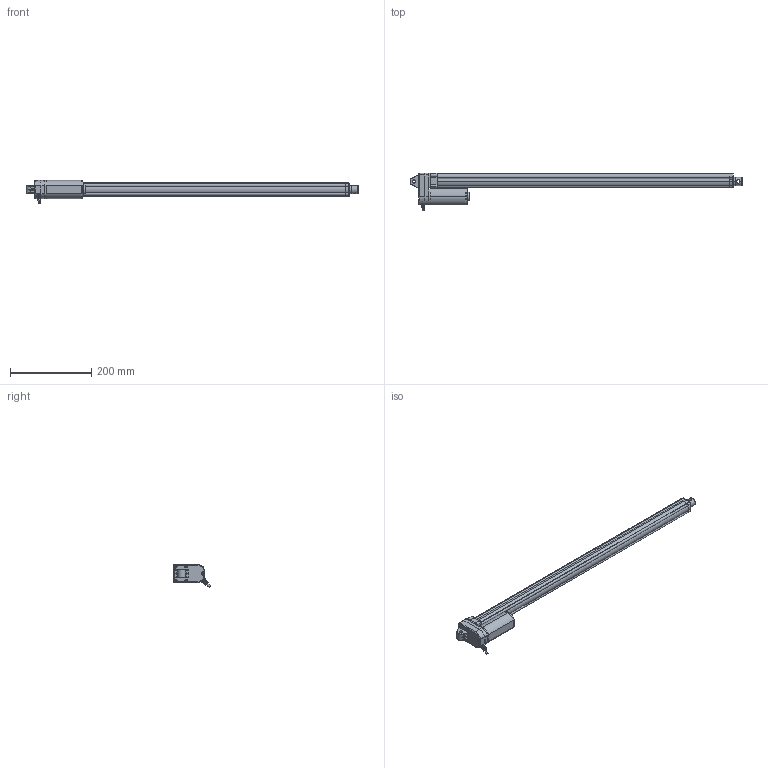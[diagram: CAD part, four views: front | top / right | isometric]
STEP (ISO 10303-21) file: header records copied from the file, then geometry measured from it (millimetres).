
FILE_DESCRIPTION(('STEP AP203'),'1');
FILE_NAME('dj809a1650800a0f011r01111111a01230619193532.stp','2025-06-19T19:35:36',('TraceParts'),('TraceParts S.A.'),'Spatial InterOp 3D',' ',' ');
FILE_SCHEMA(('CONFIG_CONTROL_DESIGN'));
Length unit declared in the file: millimetre
Products named in the file (1): 1
Bounding box: 819.11 x 92.14 x 56.99 mm (x, y, z)
Volume: 947344.2 mm3; surface area: 127733.1 mm2
Topology: 1 solids, 1 shells, 743 faces, 1942 edges, 1207 vertices
Faces by surface type: plane 297, cylinder 195, bspline 121, torus 74, cone 45, sphere 11
Entity records: 29262 total; most frequent: CARTESIAN_POINT 11986, ORIENTED_EDGE 3852, DIRECTION 3371, EDGE_CURVE 1926, AXIS2_PLACEMENT_3D 1283, VERTEX_POINT 1207, LINE 805, VECTOR 805
